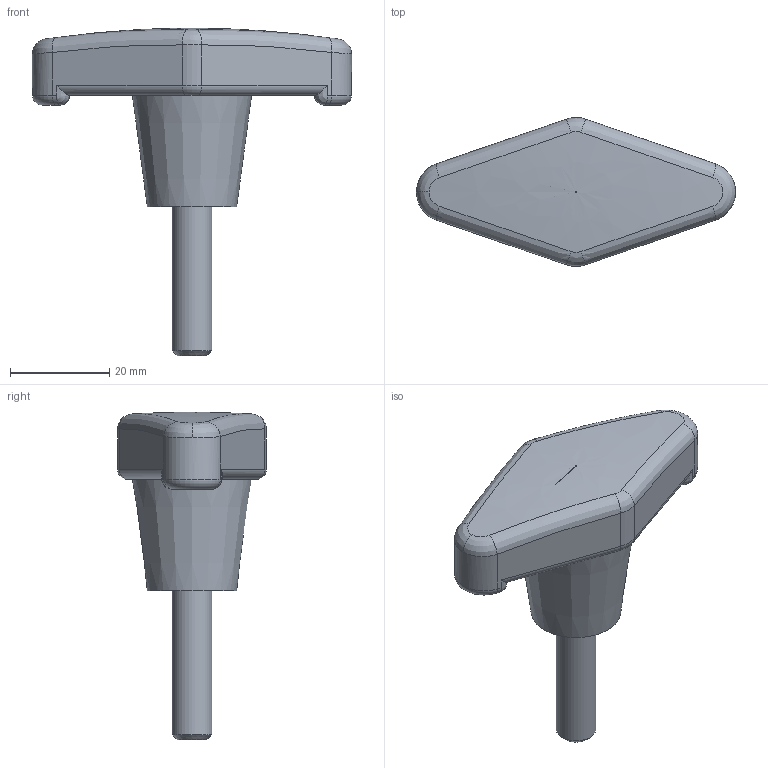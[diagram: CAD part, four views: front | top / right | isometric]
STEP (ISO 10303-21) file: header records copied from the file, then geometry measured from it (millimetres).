
FILE_DESCRIPTION( ('This file contains a STEP AP42 implementation' ,'as created by ZW3D STEP Interface translator.') ,'2;1' );
FILE_NAME( 'Rekojest eliptyczna M8 gwint zew.stp' ,'26 4 2. 75657', (''), ('ZWCAD Software Co.'), 'Version 1.0', 'ZW3D to STEP translator', '' );
FILE_SCHEMA(('AP242_MANAGED_MODEL_BASED_3D_ENGINEERING_MIM_LF { 1 0 10303 442 1 1 4 }'));
Length unit declared in the file: millimetre
Products named in the file (1): 0
Bounding box: 64.3 x 30 x 66 mm (x, y, z)
Volume: 25222.6 mm3; surface area: 8405.9 mm2
Topology: 2 solids, 2 shells, 62 faces, 140 edges, 86 vertices
Faces by surface type: plane 26, cylinder 16, bspline 14, torus 4, cone 2
Full cylindrical faces by diameter (mm): 8 x2
Entity records: 3568 total; most frequent: CARTESIAN_POINT 2239, ORIENTED_EDGE 280, DIRECTION 220, EDGE_CURVE 140, VERTEX_POINT 86, AXIS2_PLACEMENT_3D 76, VECTOR 68, LINE 68
